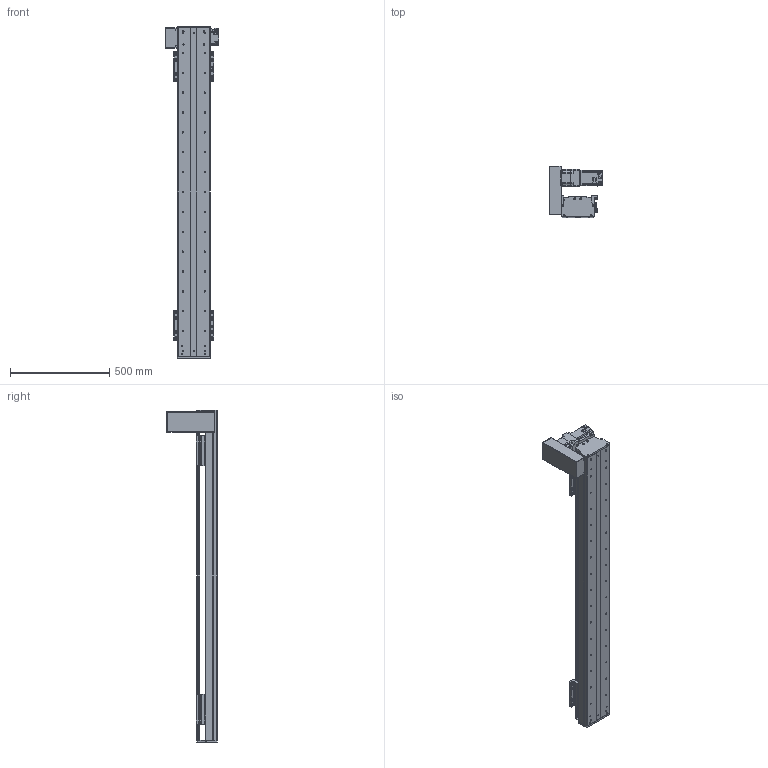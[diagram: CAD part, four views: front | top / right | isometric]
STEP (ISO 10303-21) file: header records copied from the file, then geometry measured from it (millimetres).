
FILE_DESCRIPTION(/* description */ (''),/* implementation_level */ '2;1');
FILE_NAME(/* name */ 'C:\Users\PC\Desktop\3D도면\STEP\DSB165-UL7G-W1300-R.stp',/* time_stamp */ '2018-06-25T15:07:35+09:00',/* author */ ('PC'),/* organization */ (''),/* preprocessor_version */ 'ST-DEVELOPER v16.5',/* originating_system */ 'Autodesk Inventor 2017',/* authorisation */ '');
FILE_SCHEMA (('AUTOMOTIVE_DESIGN { 1 0 10303 214 3 1 1 }'));
Length unit declared in the file: millimetre
Products named in the file (12): DSB165-L; DSR165-BASE_S; hg-kr73_; ab0901-p0401300102; 11-DBS165 BELT COVER; DBS165-COVER; DBS165-COVER_1; DBS165-UP COVER; DSR126-SENSOR DOG; pm-y65_step; SENSOR BRACKET(EE-SX674A); DBS165-TABLE(MSA20S)
Assembly tree (16 placements, depth 2):
  DSB165-L
    DSR165-BASE_S
    hg-kr73_
    ab0901-p0401300102
    11-DBS165 BELT COVER
    DBS165-COVER
    DBS165-COVER_1
    DBS165-UP COVER
    DSR126-SENSOR DOG
    pm-y65_step  x3
    SENSOR BRACKET(EE-SX674A)  x3
    DBS165-TABLE(MSA20S)  x2
Bounding box: 270 x 254 x 1670 mm (x, y, z)
Volume: 10238339.2 mm3; surface area: 2380028 mm2
Topology: 17 solids, 22 shells, 1691 faces, 4535 edges, 2988 vertices
Faces by surface type: plane 926, cylinder 631, cone 122, sphere 8, torus 4
Full cylindrical faces by diameter (mm): 2.459 x20, 3.5 x6, 4.134 x42, 4.5 x18, 5 x27, 5.5 x36, 5.9 x4, 6 x8, 6.6 x14, 6.647 x50, 6.8 x1, 7 x4, 7.6 x4, 8 x1, 8.4 x1, 8.5 x24, 8.7 x1, 9.5 x32, 11 x6, 14 x16, 19 x1, 22 x1, 24 x1, 25 x1, 28 x1, 67 x1, 70 x2, 80 x1
Entity records: 35949 total; most frequent: DIRECTION 6364, CARTESIAN_POINT 6151, ORIENTED_EDGE 5582, EDGE_CURVE 2796, AXIS2_PLACEMENT_3D 2352, VERTEX_POINT 2001, EDGE_LOOP 1779, LINE 1660
